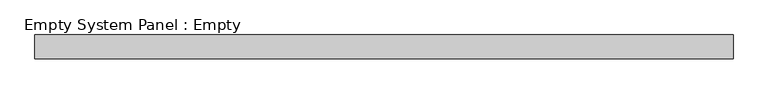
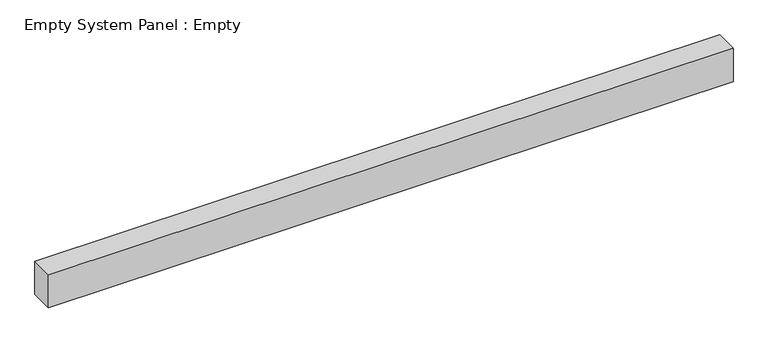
"""IFC4 building model written with IfcOpenShell, lengths in millimetres: plate geometry, Empty System Panel : Empty."""

from ifc_helpers import new_model, si_unit, origin, origin_with_axes, place, context, project, spatial, polyline, outline, extrude, source, transform, mapped, element, save


def empty_system_panel_empty_149e9d60(model_context):
    return source(origin(), model_context, "Body", "SweptSolid", [
        extrude(outline(polyline([(1462.5, -50.0), (-1462.5, -50.0), (-1462.5, 50.0), (1462.5, 50.0), (1462.5, -50.0)])), origin_with_axes(), (0.0, 0.0, 1.0), 150.0),
    ])


if __name__ == "__main__":
    model = new_model("IFC4")
    model_context = context("Model", 3, world=origin())
    ifc_project = project(units=[si_unit("LENGTHUNIT", "METRE", prefix="MILLI")], contexts=[model_context])
    site = spatial("IfcSite", under=ifc_project)
    building = spatial("IfcBuilding", under=site)
    placement = place(None, origin())
    empty_system_panel_empty_shape = empty_system_panel_empty_149e9d60(model_context)
    element("IfcPlate", 1, ObjectType="Empty System Panel : Empty", at=placement, inside=building, context=model_context, shape_type="MappedRepresentation", body=[
        mapped(empty_system_panel_empty_shape, transform((0.0, 0.0, 0.0), x_axis=(1.0, 0.0, 0.0), y_axis=(0.0, 1.0, 0.0), z_axis=(0.0, 0.0, 1.0))),
    ])
    save(model, "model.ifc")
